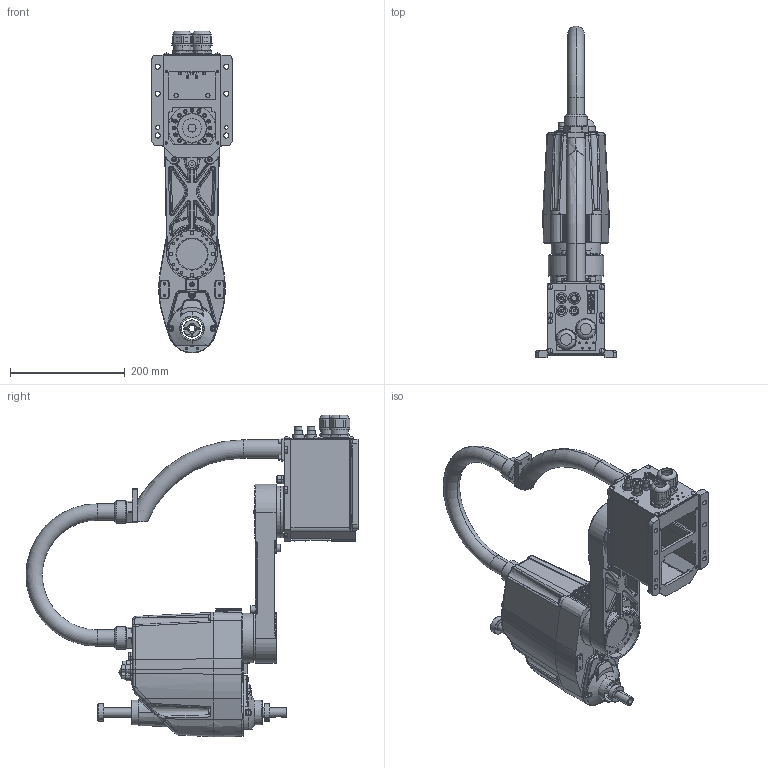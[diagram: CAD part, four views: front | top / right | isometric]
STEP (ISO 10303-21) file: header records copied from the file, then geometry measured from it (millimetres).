
FILE_DESCRIPTION((''),'2;1');
FILE_NAME('G3-351S_ASM','2008-12-19T',('0179539'),(''),'PRO/ENGINEER BY PARAMETRIC TECHNOLOGY CORPORATION, 2006510','PRO/ENGINEER BY PARAMETRIC TECHNOLOGY CORPORATION, 2006510','');
FILE_SCHEMA(('AUTOMOTIVE_DESIGN_CC2 { 1 2 10303 214 -1 1 5 2 }'));
Length unit declared in the file: millimetre
Products named in the file (6): BASE_S; J1_350; J2; SHAFT_S; CABLE; G3-351S_ASM
Assembly tree (5 placements, depth 2):
  G3-351S_ASM
    BASE_S
    J1_350
    J2
    SHAFT_S
    CABLE
Bounding box: 140 x 579.45 x 561.35 mm (x, y, z)
Volume: 2414902.1 mm3; surface area: 915190 mm2
Topology: 5 solids, 9 shells, 3600 faces, 8579 edges, 5219 vertices
Faces by surface type: cylinder 1395, plane 1161, bspline 369, cone 339, torus 184, sphere 152
Entity records: 155751 total; most frequent: CARTESIAN_POINT 48537, DIRECTION 17265, ORIENTED_EDGE 16946, EDGE_CURVE 8473, AXIS2_PLACEMENT_3D 6729, VERTEX_POINT 5219, EDGE_LOOP 4196, VECTOR 3807
